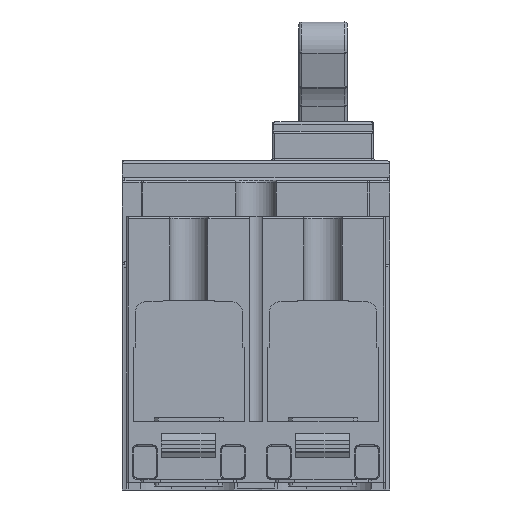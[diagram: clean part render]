
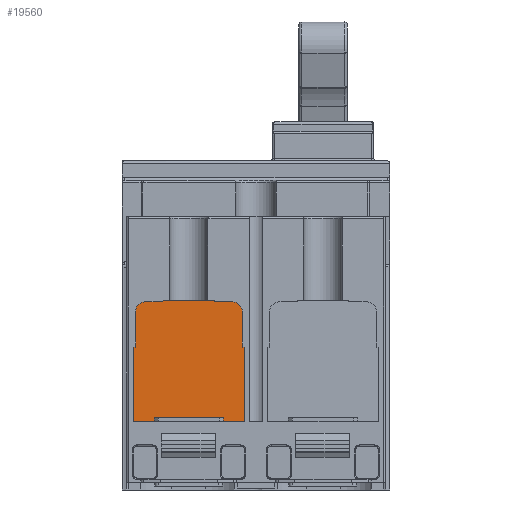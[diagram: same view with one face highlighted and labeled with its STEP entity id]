
A CAD part, front view. The second image highlights one B-rep face of the part: STEP entity #19560.
In plain terms, the highlighted planar face has unit normal (0, -1, 0).
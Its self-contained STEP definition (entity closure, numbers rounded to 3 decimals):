
#3669=DIRECTION('',(-1.,0.,0.));
#3670=VECTOR('',#3669,18.);
#3671=CARTESIAN_POINT('',(26.325,18.73,18.85));
#3672=LINE('',#3671,#3670);
#3673=DIRECTION('',(0.,0.,1.));
#3674=VECTOR('',#3673,1.);
#3675=CARTESIAN_POINT('',(8.325,18.73,17.85));
#3676=LINE('',#3675,#3674);
#3677=DIRECTION('',(1.,0.,0.));
#3678=VECTOR('',#3677,5.375);
#3679=CARTESIAN_POINT('',(2.95,18.73,17.85));
#3680=LINE('',#3679,#3678);
#3681=DIRECTION('',(0.,0.,-1.));
#3682=VECTOR('',#3681,19.4);
#3683=CARTESIAN_POINT('',(2.95,18.73,37.25));
#3684=LINE('',#3683,#3682);
#3685=DIRECTION('',(-1.,0.,0.));
#3686=VECTOR('',#3685,0.5);
#3687=CARTESIAN_POINT('',(3.45,18.73,37.25));
#3688=LINE('',#3687,#3686);
#3689=DIRECTION('',(0.,0.,-1.));
#3690=VECTOR('',#3689,9.38);
#3691=CARTESIAN_POINT('',(3.45,18.73,46.63));
#3692=LINE('',#3691,#3690);
#3693=CARTESIAN_POINT('',(5.85,18.73,46.63));
#3694=DIRECTION('',(0.,-1.,0.));
#3695=DIRECTION('',(0.,0.,1.));
#3696=AXIS2_PLACEMENT_3D('',#3693,#3694,#3695);
#3698=DIRECTION('',(-1.,0.,0.));
#3699=VECTOR('',#3698,4.596);
#3700=CARTESIAN_POINT('',(10.446,18.73,49.03));
#3701=LINE('',#3700,#3699);
#3702=CARTESIAN_POINT('',(11.15,18.73,48.65));
#3703=DIRECTION('',(0.,-1.,0.));
#3704=DIRECTION('',(0.,0.,1.));
#3705=AXIS2_PLACEMENT_3D('',#3702,#3703,#3704);
#3707=DIRECTION('',(-1.,0.,0.));
#3708=VECTOR('',#3707,12.4);
#3709=CARTESIAN_POINT('',(23.55,18.73,49.45));
#3710=LINE('',#3709,#3708);
#3711=CARTESIAN_POINT('',(23.55,18.73,48.65));
#3712=DIRECTION('',(0.,-1.,0.));
#3713=DIRECTION('',(0.88,0.,0.475));
#3714=AXIS2_PLACEMENT_3D('',#3711,#3712,#3713);
#3716=DIRECTION('',(-1.,0.,0.));
#3717=VECTOR('',#3716,4.596);
#3718=CARTESIAN_POINT('',(28.85,18.73,49.03));
#3719=LINE('',#3718,#3717);
#3720=CARTESIAN_POINT('',(28.85,18.73,46.63));
#3721=DIRECTION('',(0.,-1.,0.));
#3722=DIRECTION('',(1.,0.,0.));
#3723=AXIS2_PLACEMENT_3D('',#3720,#3721,#3722);
#3725=DIRECTION('',(0.,0.,1.));
#3726=VECTOR('',#3725,9.38);
#3727=CARTESIAN_POINT('',(31.25,18.73,37.25));
#3728=LINE('',#3727,#3726);
#3729=DIRECTION('',(-1.,0.,0.));
#3730=VECTOR('',#3729,0.5);
#3731=CARTESIAN_POINT('',(31.75,18.73,37.25));
#3732=LINE('',#3731,#3730);
#3733=DIRECTION('',(0.,0.,1.));
#3734=VECTOR('',#3733,19.4);
#3735=CARTESIAN_POINT('',(31.75,18.73,17.85));
#3736=LINE('',#3735,#3734);
#3737=DIRECTION('',(1.,0.,0.));
#3738=VECTOR('',#3737,5.425);
#3739=CARTESIAN_POINT('',(26.325,18.73,17.85));
#3740=LINE('',#3739,#3738);
#3741=DIRECTION('',(0.,0.,1.));
#3742=VECTOR('',#3741,1.);
#3743=CARTESIAN_POINT('',(26.325,18.73,17.85));
#3744=LINE('',#3743,#3742);
#11731=CARTESIAN_POINT('',(31.75,18.73,37.25));
#11732=CARTESIAN_POINT('',(31.25,18.73,37.25));
#11733=VERTEX_POINT('',#11731);
#11734=VERTEX_POINT('',#11732);
#11735=CARTESIAN_POINT('',(31.25,18.73,46.63));
#11736=VERTEX_POINT('',#11735);
#11737=CARTESIAN_POINT('',(28.85,18.73,49.03));
#11738=VERTEX_POINT('',#11737);
#11739=CARTESIAN_POINT('',(24.254,18.73,49.03));
#11740=VERTEX_POINT('',#11739);
#11741=CARTESIAN_POINT('',(23.55,18.73,49.45));
#11742=VERTEX_POINT('',#11741);
#11743=CARTESIAN_POINT('',(11.15,18.73,49.45));
#11744=VERTEX_POINT('',#11743);
#11745=CARTESIAN_POINT('',(10.446,18.73,49.03));
#11746=VERTEX_POINT('',#11745);
#11747=CARTESIAN_POINT('',(5.85,18.73,49.03));
#11748=VERTEX_POINT('',#11747);
#11749=CARTESIAN_POINT('',(3.45,18.73,46.63));
#11750=VERTEX_POINT('',#11749);
#11751=CARTESIAN_POINT('',(3.45,18.73,37.25));
#11752=VERTEX_POINT('',#11751);
#11753=CARTESIAN_POINT('',(2.95,18.73,37.25));
#11754=VERTEX_POINT('',#11753);
#11755=CARTESIAN_POINT('',(2.95,18.73,17.85));
#11756=VERTEX_POINT('',#11755);
#11757=CARTESIAN_POINT('',(31.75,18.73,17.85));
#11758=VERTEX_POINT('',#11757);
#13355=CARTESIAN_POINT('',(8.325,18.73,18.85));
#13356=VERTEX_POINT('',#13355);
#13357=CARTESIAN_POINT('',(26.325,18.73,18.85));
#13358=VERTEX_POINT('',#13357);
#13391=CARTESIAN_POINT('',(8.325,18.73,17.85));
#13392=VERTEX_POINT('',#13391);
#13393=CARTESIAN_POINT('',(26.325,18.73,17.85));
#13394=VERTEX_POINT('',#13393);
#19528=CARTESIAN_POINT('',(69.7,18.73,0.));
#19529=DIRECTION('',(0.,-1.,0.));
#19530=DIRECTION('',(0.,0.,-1.));
#19531=AXIS2_PLACEMENT_3D('',#19528,#19529,#19530);
#19532=PLANE('',#19531);
#19533=ORIENTED_EDGE('',*,*,#19483,.T.);
#19534=ORIENTED_EDGE('',*,*,#19472,.F.);
#19535=ORIENTED_EDGE('',*,*,#19438,.F.);
#19537=ORIENTED_EDGE('',*,*,#19536,.F.);
#19539=ORIENTED_EDGE('',*,*,#19538,.F.);
#19541=ORIENTED_EDGE('',*,*,#19540,.F.);
#19543=ORIENTED_EDGE('',*,*,#19542,.F.);
#19545=ORIENTED_EDGE('',*,*,#19544,.F.);
#19547=ORIENTED_EDGE('',*,*,#19546,.F.);
#19548=ORIENTED_EDGE('',*,*,#19324,.F.);
#19549=ORIENTED_EDGE('',*,*,#19345,.F.);
#19550=ORIENTED_EDGE('',*,*,#19359,.F.);
#19551=ORIENTED_EDGE('',*,*,#19373,.F.);
#19552=ORIENTED_EDGE('',*,*,#19387,.F.);
#19553=ORIENTED_EDGE('',*,*,#19401,.F.);
#19554=ORIENTED_EDGE('',*,*,#19417,.F.);
#19555=ORIENTED_EDGE('',*,*,#19450,.F.);
#19557=ORIENTED_EDGE('',*,*,#19556,.T.);
#19558=EDGE_LOOP('',(#19533,#19534,#19535,#19537,#19539,#19541,#19543,#19545,
#19547,#19548,#19549,#19550,#19551,#19552,#19553,#19554,#19555,#19557));
#19559=FACE_OUTER_BOUND('',#19558,.F.);
#19560=ADVANCED_FACE('',(#19559),#19532,.T.);
#3697=CIRCLE('',#3696,2.4);
#3706=CIRCLE('',#3705,0.8);
#3715=CIRCLE('',#3714,0.8);
#3724=CIRCLE('',#3723,2.4);
#19324=EDGE_CURVE('',#11742,#11744,#3710,.T.);
#19345=EDGE_CURVE('',#11740,#11742,#3715,.T.);
#19359=EDGE_CURVE('',#11738,#11740,#3719,.T.);
#19373=EDGE_CURVE('',#11736,#11738,#3724,.T.);
#19387=EDGE_CURVE('',#11734,#11736,#3728,.T.);
#19401=EDGE_CURVE('',#11733,#11734,#3732,.T.);
#19417=EDGE_CURVE('',#11758,#11733,#3736,.T.);
#19438=EDGE_CURVE('',#11756,#13392,#3680,.T.);
#19450=EDGE_CURVE('',#13394,#11758,#3740,.T.);
#19472=EDGE_CURVE('',#13392,#13356,#3676,.T.);
#19483=EDGE_CURVE('',#13358,#13356,#3672,.T.);
#19536=EDGE_CURVE('',#11754,#11756,#3684,.T.);
#19538=EDGE_CURVE('',#11752,#11754,#3688,.T.);
#19540=EDGE_CURVE('',#11750,#11752,#3692,.T.);
#19542=EDGE_CURVE('',#11748,#11750,#3697,.T.);
#19544=EDGE_CURVE('',#11746,#11748,#3701,.T.);
#19546=EDGE_CURVE('',#11744,#11746,#3706,.T.);
#19556=EDGE_CURVE('',#13394,#13358,#3744,.T.);
